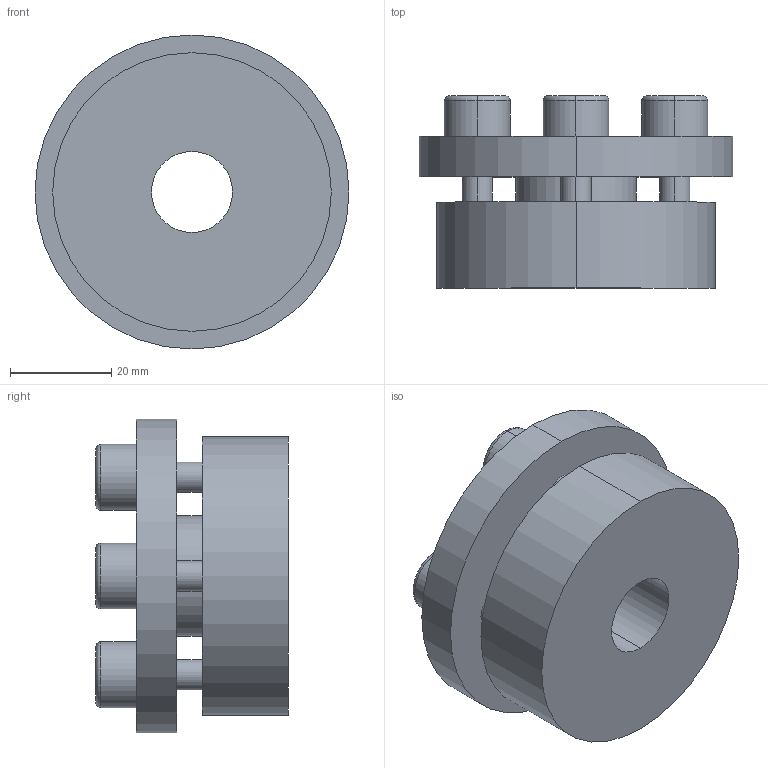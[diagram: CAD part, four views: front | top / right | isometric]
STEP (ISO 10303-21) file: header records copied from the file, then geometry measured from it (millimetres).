
FILE_DESCRIPTION (( 'STEP AP203' ), '1' );
FILE_NAME ('PL-H4 16-55.STEP', '2021-10-23T01:17:59', ( '' ), ( '' ), 'SwSTEP 2.0', 'SolidWorks 2018', '' );
FILE_SCHEMA (( 'CONFIG_CONTROL_DESIGN' ));
Length unit declared in the file: millimetre
Products named in the file (1): PL-H4 16-55
Bounding box: 62 x 38 x 62 mm (x, y, z)
Volume: 65014.4 mm3; surface area: 17593.7 mm2
Topology: 1 solids, 1 shells, 68 faces, 160 edges, 104 vertices
Faces by surface type: plane 36, cylinder 24, torus 8
Entity records: 2061 total; most frequent: DIRECTION 362, CARTESIAN_POINT 333, ORIENTED_EDGE 320, EDGE_CURVE 160, AXIS2_PLACEMENT_3D 133, VERTEX_POINT 104, VECTOR 96, LINE 96
